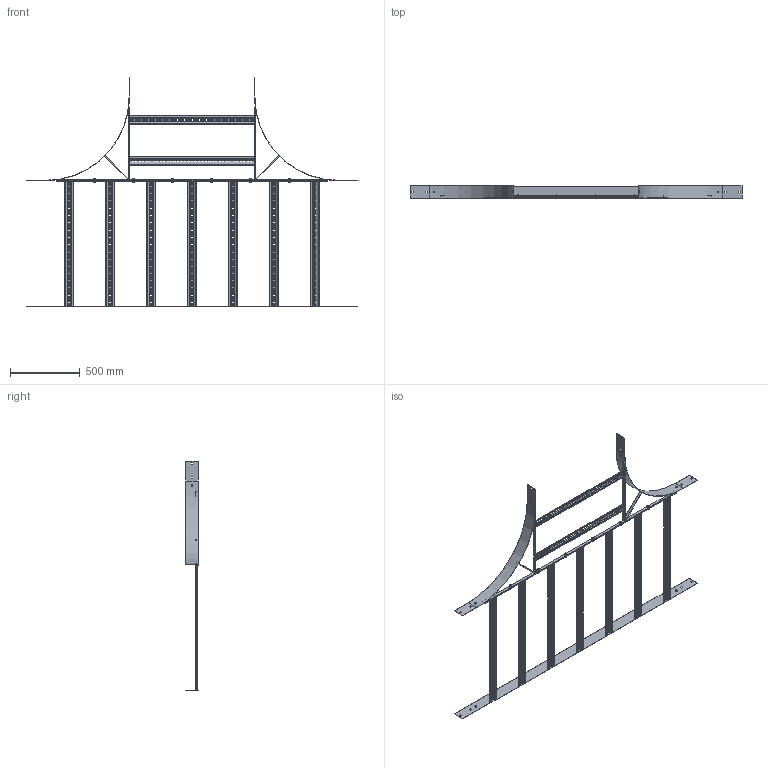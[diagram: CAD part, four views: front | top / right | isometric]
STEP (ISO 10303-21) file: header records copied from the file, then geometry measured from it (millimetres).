
FILE_DESCRIPTION (( 'STEP AP203' ), '1' );
FILE_NAME ('N2 T 9006.STEP', '2024-08-27T22:50:20', ( '' ), ( '' ), 'SwSTEP 2.0', 'SolidWorks 2023', '' );
FILE_SCHEMA (( 'CONFIG_CONTROL_DESIGN' ));
Length unit declared in the file: millimetre
Products named in the file (14): N2 Back Plate_2400; CNH M10 Collar Nut_CNH M10 collar nut HDG; Ladder Rung_Ladder Rung -  900mm; Fascia Kit M10x25_4th position; N2T9006 horizontal_N3 C; Ladder Tee 20x5 Flat Bar_518; N2T9006 vertical with sides_N3 T; Ladder Tee 20x5 Flat Bar_1945; Ladder Tee 20x5 Flat Bar_240; Washers_M10 washer; N2 T 9006; Fascia bolt - M10x25_Fascia bolt; N2 RADIUS PLATE_N1-600 IR
Assembly tree (29 placements, depth 3):
  N2 T 9006
    N2T9006 vertical with sides_N3 T
      Ladder Tee 20x5 Flat Bar_1945
      N2 RADIUS PLATE_N1-600 IR  x2
      Ladder Rung_Ladder Rung -  900mm  x2
      Ladder Tee 20x5 Flat Bar_518  x2
      Ladder Tee 20x5 Flat Bar_240  x2
    N2T9006 horizontal_N3 C
      Ladder Rung_Ladder Rung -  900mm  x7
      Ladder Tee 20x5 Flat Bar_1945
      N2 Back Plate_2400
    Fascia Kit M10x25_4th position  x6
      Fascia bolt - M10x25_Fascia bolt
      Washers_M10 washer
      CNH M10 Collar Nut_CNH M10 collar nut HDG
Bounding box: 2385 x 87 x 1649.5 mm (x, y, z)
Volume: 2264202 mm3; surface area: 2288001.1 mm2
Topology: 36 solids, 36 shells, 2944 faces, 8030 edges, 5182 vertices
Faces by surface type: plane 2568, cylinder 148, cone 84, bspline 84, torus 48, sphere 12
Entity records: 19187 total; most frequent: CARTESIAN_POINT 4479, ORIENTED_EDGE 2706, DIRECTION 2463, EDGE_CURVE 1353, LINE 1093, VECTOR 1093, VERTEX_POINT 877, AXIS2_PLACEMENT_3D 685
